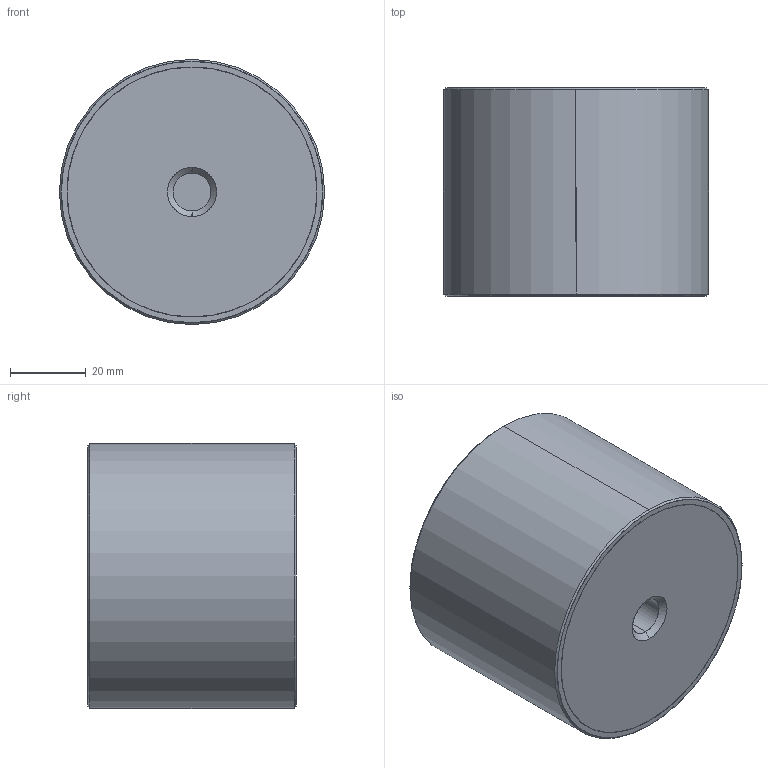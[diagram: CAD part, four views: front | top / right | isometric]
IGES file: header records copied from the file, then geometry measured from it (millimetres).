
Start section: SolidWorks IGES file using analytic representation for surfaces
Global section: file name: E:\WIXROYD 20180701\61080_v2\61080_v2_20180409_IGES\61080.W0703.igs; native system: SolidWorks 2017; preprocessor: SolidWorks 2017; author: liam_; date: 180716.214631; units: millimetre
Bounding box: 70 x 55 x 70 mm (x, y, z)
Surface area: 34856.2 mm2 (no closed solid volume)
Topology: 0 solids, 0 shells, 32 faces, 984 edges, 984 vertices
Faces by surface type: revolution 22, bspline 10
